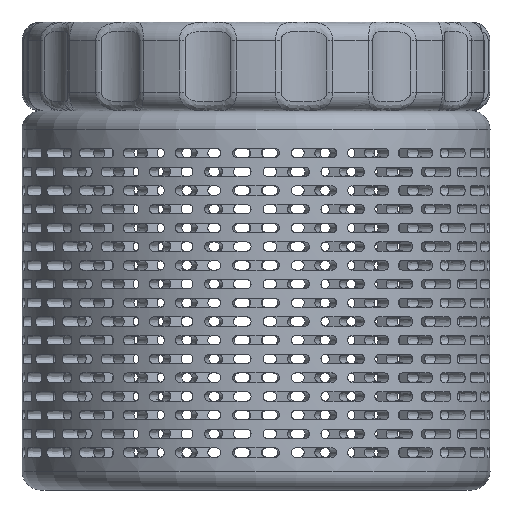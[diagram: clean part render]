
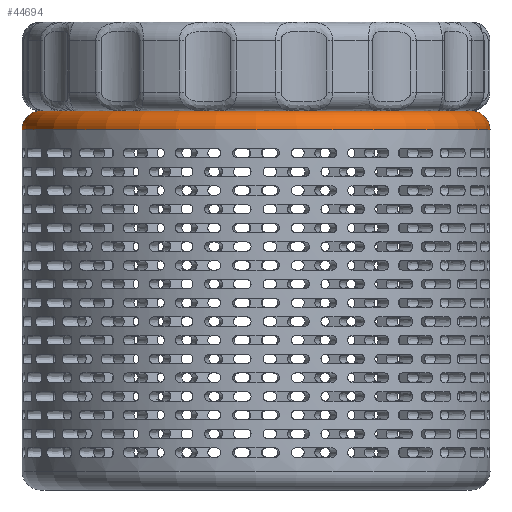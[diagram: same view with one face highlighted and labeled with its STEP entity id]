
A CAD part, front view. The second image highlights one B-rep face of the part: STEP entity #44694.
In plain terms, the highlighted toroidal (fillet/blend) face has major radius 23 mm and minor radius 2 mm.
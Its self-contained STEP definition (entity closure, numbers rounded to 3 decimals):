
#914=TOROIDAL_SURFACE('',#47458,23.,2.);
#3505=FACE_OUTER_BOUND('',#6015,.T.);
#6015=EDGE_LOOP('',(#31750,#31751,#31752,#31753));
#9225=CIRCLE('',#47459,23.);
#9226=CIRCLE('',#47460,2.);
#9227=CIRCLE('',#47461,25.);
#19098=VERTEX_POINT('',#64416);
#19099=VERTEX_POINT('',#64418);
#23917=EDGE_CURVE('',#19098,#19098,#9225,.T.);
#23918=EDGE_CURVE('',#19098,#19099,#9226,.T.);
#23919=EDGE_CURVE('',#19099,#19099,#9227,.T.);
#31750=ORIENTED_EDGE('',*,*,#23917,.T.);
#31751=ORIENTED_EDGE('',*,*,#23918,.T.);
#31752=ORIENTED_EDGE('',*,*,#23919,.T.);
#31753=ORIENTED_EDGE('',*,*,#23918,.F.);
#44694=ADVANCED_FACE('',(#3505),#914,.T.);
#47458=AXIS2_PLACEMENT_3D('',#64415,#52466,#52467);
#47459=AXIS2_PLACEMENT_3D('',#64417,#52468,#52469);
#47460=AXIS2_PLACEMENT_3D('',#64419,#52470,#52471);
#47461=AXIS2_PLACEMENT_3D('',#64420,#52472,#52473);
#52466=DIRECTION('center_axis',(0.,0.,1.));
#52467=DIRECTION('ref_axis',(1.,0.,0.));
#52468=DIRECTION('center_axis',(0.,0.,-1.));
#52469=DIRECTION('ref_axis',(1.,0.,0.));
#52470=DIRECTION('center_axis',(0.,-1.,0.));
#52471=DIRECTION('ref_axis',(-1.,0.,0.));
#52472=DIRECTION('center_axis',(0.,0.,1.));
#52473=DIRECTION('ref_axis',(1.,0.,0.));
#64415=CARTESIAN_POINT('Origin',(0.,0.,37.));
#64416=CARTESIAN_POINT('',(-23.,0.,39.));
#64417=CARTESIAN_POINT('Origin',(0.,0.,39.));
#64418=CARTESIAN_POINT('',(-25.,0.,37.));
#64419=CARTESIAN_POINT('Origin',(-23.,0.,37.));
#64420=CARTESIAN_POINT('Origin',(0.,0.,37.));
